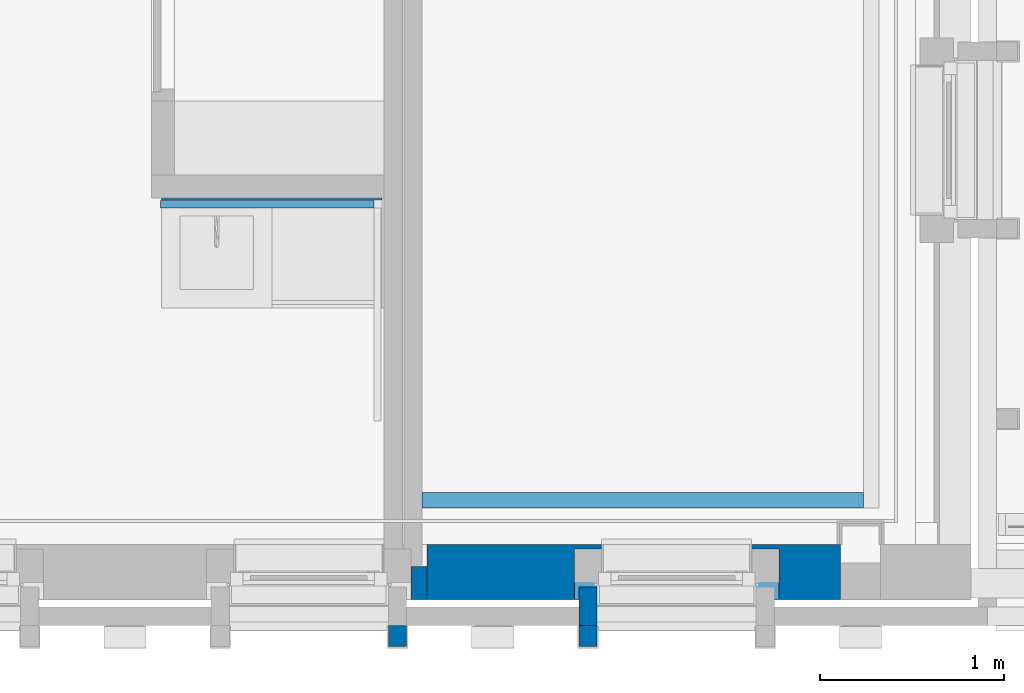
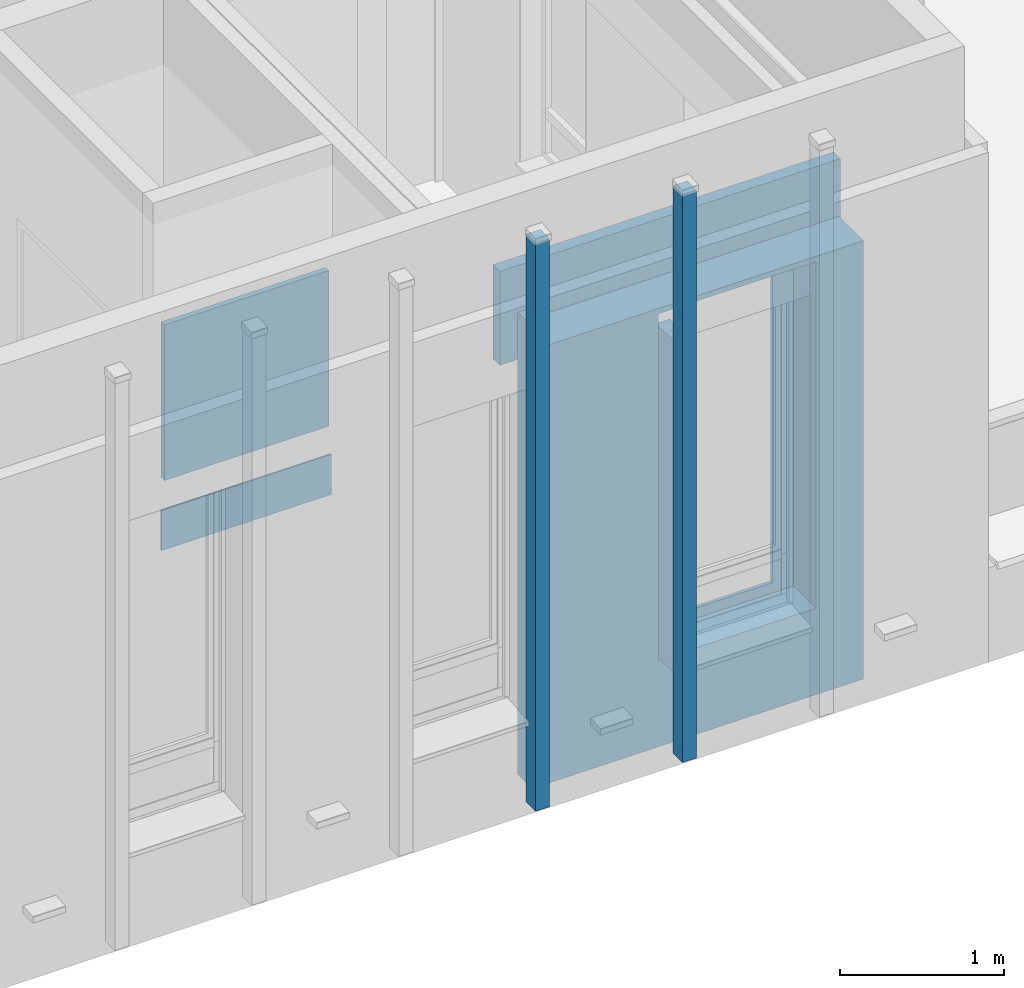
# One storey, part 40 of 118: 8 walls, 12 openings.
"""IFC2X3 building model written with IfcOpenShell, lengths in millimetres."""

from ifc_helpers import new_model, entity, si_unit, converted_unit, derived_unit, direction, frame, frame_2d, origin, place, context, subcontext, project, spatial, rectangle, extrude, faceted_brep, material, layer, layer_set, layer_usage, type_object, element, save


model = new_model("IFC2X3")

# Units and contexts
model_context = context("Model", 3, precision=0.01, world=origin(), true_north=direction((6.123031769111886e-17, 1.0)))
plan_context = context("Plan", 3, precision=0.01, world=origin(), true_north=direction((6.123031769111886e-17, 1.0)))
body_context = subcontext(model_context, "Body", "Model", "MODEL_VIEW")
ifc_project = project(units=[si_unit("LENGTHUNIT", "METRE", prefix="MILLI"), si_unit("AREAUNIT", "SQUARE_METRE"), si_unit("VOLUMEUNIT", "CUBIC_METRE"), converted_unit("PLANEANGLEUNIT", "DEGREE", entity("IfcRatioMeasure", 0.017453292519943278), si_unit("PLANEANGLEUNIT", "RADIAN"), dimensions=[0, 0, 0, 0, 0, 0, 0]), si_unit("MASSUNIT", "GRAM", prefix="KILO"), derived_unit("MASSDENSITYUNIT", [(si_unit("MASSUNIT", "GRAM", prefix="KILO"), 1), (si_unit("LENGTHUNIT", "METRE"), -3)]), derived_unit("IONCONCENTRATIONUNIT", [(si_unit("MASSUNIT", "GRAM", prefix="KILO"), 1), (si_unit("LENGTHUNIT", "METRE"), -3)]), derived_unit("MOMENTOFINERTIAUNIT", [(si_unit("LENGTHUNIT", "METRE"), 4)]), si_unit("TIMEUNIT", "SECOND"), si_unit("FREQUENCYUNIT", "HERTZ"), si_unit("THERMODYNAMICTEMPERATUREUNIT", "DEGREE_CELSIUS"), derived_unit("THERMALTRANSMITTANCEUNIT", [(si_unit("MASSUNIT", "GRAM", prefix="KILO"), 1), (si_unit("THERMODYNAMICTEMPERATUREUNIT", "KELVIN"), -1), (si_unit("TIMEUNIT", "SECOND"), -3)]), derived_unit("THERMALCONDUCTANCEUNIT", [(si_unit("MASSUNIT", "GRAM", prefix="KILO"), 1), (si_unit("THERMODYNAMICTEMPERATUREUNIT", "KELVIN"), -1), (si_unit("TIMEUNIT", "SECOND"), -3), (si_unit("LENGTHUNIT", "METRE"), 1)]), derived_unit("VOLUMETRICFLOWRATEUNIT", [(si_unit("LENGTHUNIT", "METRE"), 3), (si_unit("TIMEUNIT", "SECOND"), -1)]), derived_unit("MASSFLOWRATEUNIT", [(si_unit("MASSUNIT", "GRAM", prefix="KILO"), 1), (si_unit("TIMEUNIT", "SECOND"), -1)]), derived_unit("ROTATIONALFREQUENCYUNIT", [(si_unit("TIMEUNIT", "SECOND"), -1)]), si_unit("ELECTRICCURRENTUNIT", "AMPERE"), si_unit("ELECTRICVOLTAGEUNIT", "VOLT"), si_unit("POWERUNIT", "WATT"), si_unit("FORCEUNIT", "NEWTON", prefix="KILO"), si_unit("ILLUMINANCEUNIT", "LUX"), si_unit("LUMINOUSFLUXUNIT", "LUMEN"), si_unit("LUMINOUSINTENSITYUNIT", "CANDELA"), derived_unit("USERDEFINED", [(si_unit("MASSUNIT", "GRAM", prefix="KILO"), -1), (si_unit("LENGTHUNIT", "METRE"), -2), (si_unit("TIMEUNIT", "SECOND"), 3), (si_unit("LUMINOUSFLUXUNIT", "LUMEN"), 1)]), derived_unit("USERDEFINED", [(si_unit("MASSUNIT", "GRAM", prefix="KILO"), 1), (si_unit("TIMEUNIT", "SECOND"), -3), (si_unit("LENGTHUNIT", "METRE"), 3), (si_unit("ELECTRICCURRENTUNIT", "AMPERE"), -2)]), derived_unit("SOUNDPOWERUNIT", [(si_unit("MASSUNIT", "GRAM", prefix="KILO"), 1), (si_unit("TIMEUNIT", "SECOND"), -3), (si_unit("LENGTHUNIT", "METRE"), 2)]), derived_unit("SOUNDPRESSUREUNIT", [(si_unit("MASSUNIT", "GRAM", prefix="KILO"), 1), (si_unit("LENGTHUNIT", "METRE"), -1), (si_unit("TIMEUNIT", "SECOND"), -2)]), derived_unit("LINEARVELOCITYUNIT", [(si_unit("LENGTHUNIT", "METRE"), 1), (si_unit("TIMEUNIT", "SECOND"), -1)]), si_unit("PRESSUREUNIT", "PASCAL"), derived_unit("USERDEFINED", [(si_unit("MASSUNIT", "GRAM", prefix="KILO"), 1), (si_unit("LENGTHUNIT", "METRE"), -2), (si_unit("TIMEUNIT", "SECOND"), -2)]), derived_unit("LINEARFORCEUNIT", [(si_unit("MASSUNIT", "GRAM", prefix="KILO"), 1), (si_unit("TIMEUNIT", "SECOND"), -2)]), derived_unit("PLANARFORCEUNIT", [(si_unit("MASSUNIT", "GRAM", prefix="KILO"), 1), (si_unit("LENGTHUNIT", "METRE"), -1), (si_unit("TIMEUNIT", "SECOND"), -2)]), derived_unit("SPECIFICHEATCAPACITYUNIT", [(si_unit("THERMODYNAMICTEMPERATUREUNIT", "KELVIN"), -1), (si_unit("LENGTHUNIT", "METRE"), 2), (si_unit("TIMEUNIT", "SECOND"), -2)]), derived_unit("HEATINGVALUEUNIT", [(si_unit("LENGTHUNIT", "METRE"), 2), (si_unit("TIMEUNIT", "SECOND"), -2)]), derived_unit("VAPORPERMEABILITYUNIT", [(si_unit("LENGTHUNIT", "METRE"), -1), (si_unit("TIMEUNIT", "SECOND"), 1)]), derived_unit("DYNAMICVISCOSITYUNIT", [(si_unit("MASSUNIT", "GRAM", prefix="KILO"), 1), (si_unit("TIMEUNIT", "SECOND"), -1), (si_unit("LENGTHUNIT", "METRE"), -1)]), derived_unit("THERMALEXPANSIONCOEFFICIENTUNIT", [(si_unit("THERMODYNAMICTEMPERATUREUNIT", "KELVIN"), -1)]), derived_unit("MODULUSOFELASTICITYUNIT", [(si_unit("MASSUNIT", "GRAM", prefix="KILO"), 1), (si_unit("LENGTHUNIT", "METRE"), -1), (si_unit("TIMEUNIT", "SECOND"), -2)]), derived_unit("ISOTHERMALMOISTURECAPACITYUNIT", [(si_unit("LENGTHUNIT", "METRE"), 3), (si_unit("MASSUNIT", "GRAM", prefix="KILO"), -1)]), derived_unit("MOISTUREDIFFUSIVITYUNIT", [(si_unit("TIMEUNIT", "SECOND"), -1), (si_unit("LENGTHUNIT", "METRE"), 2)])], contexts=[model_context, plan_context])

# Site, building, storey
site_placement = place(None, origin())
site = spatial("IfcSite", under=ifc_project, at=site_placement, Name="Locatie", CompositionType="ELEMENT")
building_placement = place(site_placement, origin())
building = spatial("IfcBuilding", under=site, at=building_placement, Name="Bouwwerk", CompositionType="ELEMENT")
storey_placement = place(building_placement, frame((0.0, 0.0, 7800.0)))
storey = spatial("IfcBuildingStorey", under=building, at=storey_placement, Name="02 tweede verdieping", CompositionType="ELEMENT", Elevation=7800.000000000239)

# Wall, openings
ifc_material_1 = material(Name="n7_isolatie_glaswol")
ifc_layer_1 = layer(ifc_material_1, 30.0)
ifc_layer_2 = layer(ifc_material_1, 245.0)
ifc_material_2 = material(Name="i4_multiplex")
ifc_layer_3 = layer(ifc_material_2, 12.0)
ifc_material_3 = material(Name="f7_gipsvezel")
ifc_layer_4 = layer(ifc_material_3, 13.000000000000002)
ifc_layer_set_1 = layer_set([ifc_layer_1, ifc_layer_2, ifc_layer_3, ifc_layer_4], Name="Basic Wall:NLRS_22_WA_HSB bispouw 30-245-12-13 glaswol_gen_ISR")
ifc_layer_usage_1 = layer_usage(ifc_layer_set_1, "AXIS2", "NEGATIVE", 150.0)
wall_type_1 = type_object("IfcWallType", Name="Basic Wall:NLRS_22_WA_HSB bispouw 30-245-12-13 glaswol_gen_ISR", PredefinedType="STANDARD", material=ifc_layer_set_1)
wall_1_placement = place(storey_placement, frame((34190.0, 9850.0, -30.0), z_axis=(0.0, 0.0, 1.0), x_axis=(-1.0, 0.0, 0.0)))
wall_1 = element("IfcWallStandardCase", 1, at=wall_1_placement, inside=storey, type_object=wall_type_1, material=ifc_layer_usage_1, Name="Basic Wall:NLRS_22_WA_HSB bispouw 30-245-12-13 glaswol_gen_ISR", ObjectType="Basic Wall:NLRS_22_WA_HSB bispouw 30-245-12-13 glaswol_gen_ISR", context=body_context, shape_type="SweptSolid", body=[
    extrude(rectangle(XDim=2247.4999994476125, YDim=300.0000000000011, at=frame_2d((1123.7499997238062, 0.0), x_axis=(-1.0, 0.0))), origin(), (0.0, 0.0, 1.0), 3265.9999999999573),
])
opening_1_placement = place(wall_1_placement, frame((3446.0, 290.0, 633.0)))
element("IfcOpeningElement", 2, at=opening_1_placement, cuts=wall_1, Name="Basic Wall:NLRS_22_WA_HSB bispouw 30-245-12-13 glaswol_gen_ISR", ObjectType="Opening", context=body_context, shape_type="Brep", body=[
    faceted_brep([(-24.0, -100.0, 2472.0), (-103.0, -100.0, 2472.0), (-103.0, -100.0, 42.0), (-1009.0, -100.0, 42.0), (-1009.0, -100.0, 2472.0), (-1088.0, -100.0, 2472.0), (-1088.0, -100.0, 0.0), (-24.0, -100.0, 0.0), (-1088.0, 0.0, 2472.0), (-24.0, 0.0, 2472.0), (-24.0, 0.0, 0.0), (-1088.0, 0.0, 0.0), (-1112.0, -415.0, 2594.0), (-1112.0, -415.0, 11.0), (0.0, -415.0, 11.0), (0.0, -415.0, 2594.0), (-964.0, -415.0, 2443.0), (-148.0, -415.0, 2443.0), (-148.0, -415.0, 87.0), (-964.0, -415.0, 87.0), (-1112.0, -140.0, 2594.0), (0.0, -140.0, 2594.0), (0.0, -140.0, 11.0), (-1112.0, -140.0, 11.0), (-1009.0, -140.0, 42.0), (-103.0, -140.0, 42.0), (-103.0, -140.0, 2508.0), (-1009.0, -140.0, 2508.0), (-103.0, -100.0, 2508.0), (-1009.0, -100.0, 2508.0), (-964.0, -615.0, 2443.0), (-964.0, -615.0, 87.0), (-148.0, -615.0, 87.0), (-148.0, -615.0, 2443.0)], [[[0, 1, 2, 3, 4, 5, 6, 7]], [[8, 9, 10, 11]], [[5, 8, 11, 6]], [[6, 11, 10, 7]], [[7, 10, 9, 0]], [[8, 5, 4, 1, 0, 9]], [[12, 13, 14, 15], [16, 17, 18, 19]], [[20, 21, 22, 23], [24, 25, 26, 27]], [[12, 20, 23, 13]], [[13, 23, 22, 14]], [[14, 22, 21, 15]], [[15, 21, 20, 12]], [[28, 1, 4, 29]], [[24, 27, 29, 4, 3]], [[3, 2, 25, 24]], [[2, 1, 28, 26, 25]], [[29, 27, 26, 28]], [[30, 31, 32, 33]], [[30, 16, 19, 31]], [[31, 19, 18, 32]], [[32, 18, 17, 33]], [[33, 17, 16, 30]]]),
])
opening_2_placement = place(wall_1_placement, frame((5446.0, 290.0, 633.0)))
element("IfcOpeningElement", 3, at=opening_2_placement, cuts=wall_1, Name="Basic Wall:NLRS_22_WA_HSB bispouw 30-245-12-13 glaswol_gen_ISR", ObjectType="Opening", context=body_context, shape_type="Brep", body=[
    faceted_brep([(-24.0, -100.0, 2472.0), (-103.0, -100.0, 2472.0), (-103.0, -100.0, 42.0), (-1009.0, -100.0, 42.0), (-1009.0, -100.0, 2472.0), (-1088.0, -100.0, 2472.0), (-1088.0, -100.0, 0.0), (-24.0, -100.0, 0.0), (-1088.0, 0.0, 2472.0), (-24.0, 0.0, 2472.0), (-24.0, 0.0, 0.0), (-1088.0, 0.0, 0.0), (-1112.0, -415.0, 2594.0), (-1112.0, -415.0, 11.0), (0.0, -415.0, 11.0), (0.0, -415.0, 2594.0), (-964.0, -415.0, 2443.0), (-148.0, -415.0, 2443.0), (-148.0, -415.0, 87.0), (-964.0, -415.0, 87.0), (-1112.0, -140.0, 2594.0), (0.0, -140.0, 2594.0), (0.0, -140.0, 11.0), (-1112.0, -140.0, 11.0), (-1009.0, -140.0, 42.0), (-103.0, -140.0, 42.0), (-103.0, -140.0, 2508.0), (-1009.0, -140.0, 2508.0), (-103.0, -100.0, 2508.0), (-1009.0, -100.0, 2508.0), (-964.0, -615.0, 2443.0), (-964.0, -615.0, 87.0), (-148.0, -615.0, 87.0), (-148.0, -615.0, 2443.0)], [[[0, 1, 2, 3, 4, 5, 6, 7]], [[8, 9, 10, 11]], [[5, 8, 11, 6]], [[6, 11, 10, 7]], [[7, 10, 9, 0]], [[8, 5, 4, 1, 0, 9]], [[12, 13, 14, 15], [16, 17, 18, 19]], [[20, 21, 22, 23], [24, 25, 26, 27]], [[12, 20, 23, 13]], [[13, 23, 22, 14]], [[14, 22, 21, 15]], [[15, 21, 20, 12]], [[28, 1, 4, 29]], [[24, 27, 29, 4, 3]], [[3, 2, 25, 24]], [[2, 1, 28, 26, 25]], [[29, 27, 26, 28]], [[30, 31, 32, 33]], [[30, 16, 19, 31]], [[31, 19, 18, 32]], [[32, 18, 17, 33]], [[33, 17, 16, 30]]]),
])
opening_3_placement = place(wall_1_placement, frame((7446.0, 290.0, 633.0)))
element("IfcOpeningElement", 4, at=opening_3_placement, cuts=wall_1, Name="Basic Wall:NLRS_22_WA_HSB bispouw 30-245-12-13 glaswol_gen_ISR", ObjectType="Opening", context=body_context, shape_type="Brep", body=[
    faceted_brep([(-24.0, -100.0, 2472.0), (-103.0, -100.0, 2472.0), (-103.0, -100.0, 42.0), (-1009.0, -100.0, 42.0), (-1009.0, -100.0, 2472.0), (-1088.0, -100.0, 2472.0), (-1088.0, -100.0, 0.0), (-24.0, -100.0, 0.0), (-1088.0, 0.0, 2472.0), (-24.0, 0.0, 2472.0), (-24.0, 0.0, 0.0), (-1088.0, 0.0, 0.0), (-1112.0, -415.0, 2594.0), (-1112.0, -415.0, 11.0), (0.0, -415.0, 11.0), (0.0, -415.0, 2594.0), (-964.0, -415.0, 2443.0), (-148.0, -415.0, 2443.0), (-148.0, -415.0, 87.0), (-964.0, -415.0, 87.0), (-1112.0, -140.0, 2594.0), (0.0, -140.0, 2594.0), (0.0, -140.0, 11.0), (-1112.0, -140.0, 11.0), (-1009.0, -140.0, 42.0), (-103.0, -140.0, 42.0), (-103.0, -140.0, 2508.0), (-1009.0, -140.0, 2508.0), (-103.0, -100.0, 2508.0), (-1009.0, -100.0, 2508.0), (-964.0, -615.0, 2443.0), (-964.0, -615.0, 87.0), (-148.0, -615.0, 87.0), (-148.0, -615.0, 2443.0)], [[[0, 1, 2, 3, 4, 5, 6, 7]], [[8, 9, 10, 11]], [[5, 8, 11, 6]], [[6, 11, 10, 7]], [[7, 10, 9, 0]], [[8, 5, 4, 1, 0, 9]], [[12, 13, 14, 15], [16, 17, 18, 19]], [[20, 21, 22, 23], [24, 25, 26, 27]], [[12, 20, 23, 13]], [[13, 23, 22, 14]], [[14, 22, 21, 15]], [[15, 21, 20, 12]], [[28, 1, 4, 29]], [[24, 27, 29, 4, 3]], [[3, 2, 25, 24]], [[2, 1, 28, 26, 25]], [[29, 27, 26, 28]], [[30, 31, 32, 33]], [[30, 16, 19, 31]], [[31, 19, 18, 32]], [[32, 18, 17, 33]], [[33, 17, 16, 30]]]),
])
opening_4_placement = place(wall_1_placement, frame((9446.0, 290.0, 633.0)))
element("IfcOpeningElement", 5, at=opening_4_placement, cuts=wall_1, Name="Basic Wall:NLRS_22_WA_HSB bispouw 30-245-12-13 glaswol_gen_ISR", ObjectType="Opening", context=body_context, shape_type="Brep", body=[
    faceted_brep([(-24.0, -100.0, 2472.0), (-103.0, -100.0, 2472.0), (-103.0, -100.0, 42.0), (-1009.0, -100.0, 42.0), (-1009.0, -100.0, 2472.0), (-1088.0, -100.0, 2472.0), (-1088.0, -100.0, 0.0), (-24.0, -100.0, 0.0), (-1088.0, 0.0, 2472.0), (-24.0, 0.0, 2472.0), (-24.0, 0.0, 0.0), (-1088.0, 0.0, 0.0), (-1112.0, -415.0, 2594.0), (-1112.0, -415.0, 11.0), (0.0, -415.0, 11.0), (0.0, -415.0, 2594.0), (-964.0, -415.0, 2443.0), (-148.0, -415.0, 2443.0), (-148.0, -415.0, 87.0), (-964.0, -415.0, 87.0), (-1112.0, -140.0, 2594.0), (0.0, -140.0, 2594.0), (0.0, -140.0, 11.0), (-1112.0, -140.0, 11.0), (-1009.0, -140.0, 42.0), (-103.0, -140.0, 42.0), (-103.0, -140.0, 2508.0), (-1009.0, -140.0, 2508.0), (-103.0, -100.0, 2508.0), (-1009.0, -100.0, 2508.0), (-964.0, -615.0, 2443.0), (-964.0, -615.0, 87.0), (-148.0, -615.0, 87.0), (-148.0, -615.0, 2443.0)], [[[0, 1, 2, 3, 4, 5, 6, 7]], [[8, 9, 10, 11]], [[5, 8, 11, 6]], [[6, 11, 10, 7]], [[7, 10, 9, 0]], [[8, 5, 4, 1, 0, 9]], [[12, 13, 14, 15], [16, 17, 18, 19]], [[20, 21, 22, 23], [24, 25, 26, 27]], [[12, 20, 23, 13]], [[13, 23, 22, 14]], [[14, 22, 21, 15]], [[15, 21, 20, 12]], [[28, 1, 4, 29]], [[24, 27, 29, 4, 3]], [[3, 2, 25, 24]], [[2, 1, 28, 26, 25]], [[29, 27, 26, 28]], [[30, 31, 32, 33]], [[30, 16, 19, 31]], [[31, 19, 18, 32]], [[32, 18, 17, 33]], [[33, 17, 16, 30]]]),
])
opening_5_placement = place(wall_1_placement, frame((13446.0, 290.0, 633.0)))
element("IfcOpeningElement", 6, at=opening_5_placement, cuts=wall_1, Name="Basic Wall:NLRS_22_WA_HSB bispouw 30-245-12-13 glaswol_gen_ISR", ObjectType="Opening", context=body_context, shape_type="Brep", body=[
    faceted_brep([(-24.0, -100.0, 2472.0), (-103.0, -100.0, 2472.0), (-103.0, -100.0, 42.0), (-1009.0, -100.0, 42.0), (-1009.0, -100.0, 2472.0), (-1088.0, -100.0, 2472.0), (-1088.0, -100.0, 0.0), (-24.0, -100.0, 0.0), (-1088.0, 0.0, 2472.0), (-24.0, 0.0, 2472.0), (-24.0, 0.0, 0.0), (-1088.0, 0.0, 0.0), (-1112.0, -415.0, 2594.0), (-1112.0, -415.0, 11.0), (0.0, -415.0, 11.0), (0.0, -415.0, 2594.0), (-964.0, -415.0, 2443.0), (-148.0, -415.0, 2443.0), (-148.0, -415.0, 87.0), (-964.0, -415.0, 87.0), (-1112.0, -140.0, 2594.0), (0.0, -140.0, 2594.0), (0.0, -140.0, 11.0), (-1112.0, -140.0, 11.0), (-1009.0, -140.0, 42.0), (-103.0, -140.0, 42.0), (-103.0, -140.0, 2508.0), (-1009.0, -140.0, 2508.0), (-103.0, -100.0, 2508.0), (-1009.0, -100.0, 2508.0), (-964.0, -615.0, 2443.0), (-964.0, -615.0, 87.0), (-148.0, -615.0, 87.0), (-148.0, -615.0, 2443.0)], [[[0, 1, 2, 3, 4, 5, 6, 7]], [[8, 9, 10, 11]], [[5, 8, 11, 6]], [[6, 11, 10, 7]], [[7, 10, 9, 0]], [[8, 5, 4, 1, 0, 9]], [[12, 13, 14, 15], [16, 17, 18, 19]], [[20, 21, 22, 23], [24, 25, 26, 27]], [[12, 20, 23, 13]], [[13, 23, 22, 14]], [[14, 22, 21, 15]], [[15, 21, 20, 12]], [[28, 1, 4, 29]], [[24, 27, 29, 4, 3]], [[3, 2, 25, 24]], [[2, 1, 28, 26, 25]], [[29, 27, 26, 28]], [[30, 31, 32, 33]], [[30, 16, 19, 31]], [[31, 19, 18, 32]], [[32, 18, 17, 33]], [[33, 17, 16, 30]]]),
])
opening_6_placement = place(wall_1_placement, frame((15446.0, 290.0, 633.0)))
element("IfcOpeningElement", 7, at=opening_6_placement, cuts=wall_1, Name="Basic Wall:NLRS_22_WA_HSB bispouw 30-245-12-13 glaswol_gen_ISR", ObjectType="Opening", context=body_context, shape_type="Brep", body=[
    faceted_brep([(-24.0, -100.0, 2472.0), (-103.0, -100.0, 2472.0), (-103.0, -100.0, 42.0), (-1009.0, -100.0, 42.0), (-1009.0, -100.0, 2472.0), (-1088.0, -100.0, 2472.0), (-1088.0, -100.0, 0.0), (-24.0, -100.0, 0.0), (-1088.0, 0.0, 2472.0), (-24.0, 0.0, 2472.0), (-24.0, 0.0, 0.0), (-1088.0, 0.0, 0.0), (-1112.0, -415.0, 2594.0), (-1112.0, -415.0, 11.0), (0.0, -415.0, 11.0), (0.0, -415.0, 2594.0), (-964.0, -415.0, 2443.0), (-148.0, -415.0, 2443.0), (-148.0, -415.0, 87.0), (-964.0, -415.0, 87.0), (-1112.0, -140.0, 2594.0), (0.0, -140.0, 2594.0), (0.0, -140.0, 11.0), (-1112.0, -140.0, 11.0), (-1009.0, -140.0, 42.0), (-103.0, -140.0, 42.0), (-103.0, -140.0, 2508.0), (-1009.0, -140.0, 2508.0), (-103.0, -100.0, 2508.0), (-1009.0, -100.0, 2508.0), (-964.0, -615.0, 2443.0), (-964.0, -615.0, 87.0), (-148.0, -615.0, 87.0), (-148.0, -615.0, 2443.0)], [[[0, 1, 2, 3, 4, 5, 6, 7]], [[8, 9, 10, 11]], [[5, 8, 11, 6]], [[6, 11, 10, 7]], [[7, 10, 9, 0]], [[8, 5, 4, 1, 0, 9]], [[12, 13, 14, 15], [16, 17, 18, 19]], [[20, 21, 22, 23], [24, 25, 26, 27]], [[12, 20, 23, 13]], [[13, 23, 22, 14]], [[14, 22, 21, 15]], [[15, 21, 20, 12]], [[28, 1, 4, 29]], [[24, 27, 29, 4, 3]], [[3, 2, 25, 24]], [[2, 1, 28, 26, 25]], [[29, 27, 26, 28]], [[30, 31, 32, 33]], [[30, 16, 19, 31]], [[31, 19, 18, 32]], [[32, 18, 17, 33]], [[33, 17, 16, 30]]]),
])
opening_7_placement = place(wall_1_placement, frame((17446.0, 290.0, 633.0)))
element("IfcOpeningElement", 8, at=opening_7_placement, cuts=wall_1, Name="Basic Wall:NLRS_22_WA_HSB bispouw 30-245-12-13 glaswol_gen_ISR", ObjectType="Opening", context=body_context, shape_type="Brep", body=[
    faceted_brep([(-24.0, -100.0, 2472.0), (-103.0, -100.0, 2472.0), (-103.0, -100.0, 42.0), (-1009.0, -100.0, 42.0), (-1009.0, -100.0, 2472.0), (-1088.0, -100.0, 2472.0), (-1088.0, -100.0, 0.0), (-24.0, -100.0, 0.0), (-1088.0, 0.0, 2472.0), (-24.0, 0.0, 2472.0), (-24.0, 0.0, 0.0), (-1088.0, 0.0, 0.0), (-1112.0, -415.0, 2594.0), (-1112.0, -415.0, 11.0), (0.0, -415.0, 11.0), (0.0, -415.0, 2594.0), (-964.0, -415.0, 2443.0), (-148.0, -415.0, 2443.0), (-148.0, -415.0, 87.0), (-964.0, -415.0, 87.0), (-1112.0, -140.0, 2594.0), (0.0, -140.0, 2594.0), (0.0, -140.0, 11.0), (-1112.0, -140.0, 11.0), (-1009.0, -140.0, 42.0), (-103.0, -140.0, 42.0), (-103.0, -140.0, 2508.0), (-1009.0, -140.0, 2508.0), (-103.0, -100.0, 2508.0), (-1009.0, -100.0, 2508.0), (-964.0, -615.0, 2443.0), (-964.0, -615.0, 87.0), (-148.0, -615.0, 87.0), (-148.0, -615.0, 2443.0)], [[[0, 1, 2, 3, 4, 5, 6, 7]], [[8, 9, 10, 11]], [[5, 8, 11, 6]], [[6, 11, 10, 7]], [[7, 10, 9, 0]], [[8, 5, 4, 1, 0, 9]], [[12, 13, 14, 15], [16, 17, 18, 19]], [[20, 21, 22, 23], [24, 25, 26, 27]], [[12, 20, 23, 13]], [[13, 23, 22, 14]], [[14, 22, 21, 15]], [[15, 21, 20, 12]], [[28, 1, 4, 29]], [[24, 27, 29, 4, 3]], [[3, 2, 25, 24]], [[2, 1, 28, 26, 25]], [[29, 27, 26, 28]], [[30, 31, 32, 33]], [[30, 16, 19, 31]], [[31, 19, 18, 32]], [[32, 18, 17, 33]], [[33, 17, 16, 30]]]),
])
opening_8_placement = place(wall_1_placement, frame((19446.0, 290.0, 633.0)))
element("IfcOpeningElement", 9, at=opening_8_placement, cuts=wall_1, Name="Basic Wall:NLRS_22_WA_HSB bispouw 30-245-12-13 glaswol_gen_ISR", ObjectType="Opening", context=body_context, shape_type="Brep", body=[
    faceted_brep([(-24.0, -100.0, 2472.0), (-103.0, -100.0, 2472.0), (-103.0, -100.0, 42.0), (-1009.0, -100.0, 42.0), (-1009.0, -100.0, 2472.0), (-1088.0, -100.0, 2472.0), (-1088.0, -100.0, 0.0), (-24.0, -100.0, 0.0), (-1088.0, 0.0, 2472.0), (-24.0, 0.0, 2472.0), (-24.0, 0.0, 0.0), (-1088.0, 0.0, 0.0), (-1112.0, -415.0, 2594.0), (-1112.0, -415.0, 11.0), (0.0, -415.0, 11.0), (0.0, -415.0, 2594.0), (-964.0, -415.0, 2443.0), (-148.0, -415.0, 2443.0), (-148.0, -415.0, 87.0), (-964.0, -415.0, 87.0), (-1112.0, -140.0, 2594.0), (0.0, -140.0, 2594.0), (0.0, -140.0, 11.0), (-1112.0, -140.0, 11.0), (-1009.0, -140.0, 42.0), (-103.0, -140.0, 42.0), (-103.0, -140.0, 2508.0), (-1009.0, -140.0, 2508.0), (-103.0, -100.0, 2508.0), (-1009.0, -100.0, 2508.0), (-964.0, -615.0, 2443.0), (-964.0, -615.0, 87.0), (-148.0, -615.0, 87.0), (-148.0, -615.0, 2443.0)], [[[0, 1, 2, 3, 4, 5, 6, 7]], [[8, 9, 10, 11]], [[5, 8, 11, 6]], [[6, 11, 10, 7]], [[7, 10, 9, 0]], [[8, 5, 4, 1, 0, 9]], [[12, 13, 14, 15], [16, 17, 18, 19]], [[20, 21, 22, 23], [24, 25, 26, 27]], [[12, 20, 23, 13]], [[13, 23, 22, 14]], [[14, 22, 21, 15]], [[15, 21, 20, 12]], [[28, 1, 4, 29]], [[24, 27, 29, 4, 3]], [[3, 2, 25, 24]], [[2, 1, 28, 26, 25]], [[29, 27, 26, 28]], [[30, 31, 32, 33]], [[30, 16, 19, 31]], [[31, 19, 18, 32]], [[32, 18, 17, 33]], [[33, 17, 16, 30]]]),
])
opening_9_placement = place(wall_1_placement, frame((21446.0, 290.0, 633.0)))
element("IfcOpeningElement", 10, at=opening_9_placement, cuts=wall_1, Name="Basic Wall:NLRS_22_WA_HSB bispouw 30-245-12-13 glaswol_gen_ISR", ObjectType="Opening", context=body_context, shape_type="Brep", body=[
    faceted_brep([(-24.0, -100.0, 2472.0), (-103.0, -100.0, 2472.0), (-103.0, -100.0, 42.0), (-1009.0, -100.0, 42.0), (-1009.0, -100.0, 2472.0), (-1088.0, -100.0, 2472.0), (-1088.0, -100.0, 0.0), (-24.0, -100.0, 0.0), (-1088.0, 0.0, 2472.0), (-24.0, 0.0, 2472.0), (-24.0, 0.0, 0.0), (-1088.0, 0.0, 0.0), (-1112.0, -415.0, 2594.0), (-1112.0, -415.0, 11.0), (0.0, -415.0, 11.0), (0.0, -415.0, 2594.0), (-964.0, -415.0, 2443.0), (-148.0, -415.0, 2443.0), (-148.0, -415.0, 87.0), (-964.0, -415.0, 87.0), (-1112.0, -140.0, 2594.0), (0.0, -140.0, 2594.0), (0.0, -140.0, 11.0), (-1112.0, -140.0, 11.0), (-1009.0, -140.0, 42.0), (-103.0, -140.0, 42.0), (-103.0, -140.0, 2508.0), (-1009.0, -140.0, 2508.0), (-103.0, -100.0, 2508.0), (-1009.0, -100.0, 2508.0), (-964.0, -615.0, 2443.0), (-964.0, -615.0, 87.0), (-148.0, -615.0, 87.0), (-148.0, -615.0, 2443.0)], [[[0, 1, 2, 3, 4, 5, 6, 7]], [[8, 9, 10, 11]], [[5, 8, 11, 6]], [[6, 11, 10, 7]], [[7, 10, 9, 0]], [[8, 5, 4, 1, 0, 9]], [[12, 13, 14, 15], [16, 17, 18, 19]], [[20, 21, 22, 23], [24, 25, 26, 27]], [[12, 20, 23, 13]], [[13, 23, 22, 14]], [[14, 22, 21, 15]], [[15, 21, 20, 12]], [[28, 1, 4, 29]], [[24, 27, 29, 4, 3]], [[3, 2, 25, 24]], [[2, 1, 28, 26, 25]], [[29, 27, 26, 28]], [[30, 31, 32, 33]], [[30, 16, 19, 31]], [[31, 19, 18, 32]], [[32, 18, 17, 33]], [[33, 17, 16, 30]]]),
])
opening_10_placement = place(wall_1_placement, frame((23446.0, 290.0, 633.0)))
element("IfcOpeningElement", 11, at=opening_10_placement, cuts=wall_1, Name="Basic Wall:NLRS_22_WA_HSB bispouw 30-245-12-13 glaswol_gen_ISR", ObjectType="Opening", context=body_context, shape_type="Brep", body=[
    faceted_brep([(-24.0, -100.0, 2472.0), (-103.0, -100.0, 2472.0), (-103.0, -100.0, 42.0), (-1009.0, -100.0, 42.0), (-1009.0, -100.0, 2472.0), (-1088.0, -100.0, 2472.0), (-1088.0, -100.0, 0.0), (-24.0, -100.0, 0.0), (-1088.0, 0.0, 2472.0), (-24.0, 0.0, 2472.0), (-24.0, 0.0, 0.0), (-1088.0, 0.0, 0.0), (-1112.0, -415.0, 2594.0), (-1112.0, -415.0, 11.0), (0.0, -415.0, 11.0), (0.0, -415.0, 2594.0), (-964.0, -415.0, 2443.0), (-148.0, -415.0, 2443.0), (-148.0, -415.0, 87.0), (-964.0, -415.0, 87.0), (-1112.0, -140.0, 2594.0), (0.0, -140.0, 2594.0), (0.0, -140.0, 11.0), (-1112.0, -140.0, 11.0), (-1009.0, -140.0, 42.0), (-103.0, -140.0, 42.0), (-103.0, -140.0, 2508.0), (-1009.0, -140.0, 2508.0), (-103.0, -100.0, 2508.0), (-1009.0, -100.0, 2508.0), (-964.0, -615.0, 2443.0), (-964.0, -615.0, 87.0), (-148.0, -615.0, 87.0), (-148.0, -615.0, 2443.0)], [[[0, 1, 2, 3, 4, 5, 6, 7]], [[8, 9, 10, 11]], [[5, 8, 11, 6]], [[6, 11, 10, 7]], [[7, 10, 9, 0]], [[8, 5, 4, 1, 0, 9]], [[12, 13, 14, 15], [16, 17, 18, 19]], [[20, 21, 22, 23], [24, 25, 26, 27]], [[12, 20, 23, 13]], [[13, 23, 22, 14]], [[14, 22, 21, 15]], [[15, 21, 20, 12]], [[28, 1, 4, 29]], [[24, 27, 29, 4, 3]], [[3, 2, 25, 24]], [[2, 1, 28, 26, 25]], [[29, 27, 26, 28]], [[30, 31, 32, 33]], [[30, 16, 19, 31]], [[31, 19, 18, 32]], [[32, 18, 17, 33]], [[33, 17, 16, 30]]]),
])
opening_11_placement = place(wall_1_placement, frame((11446.0, 290.0, 633.0)))
element("IfcOpeningElement", 12, at=opening_11_placement, cuts=wall_1, Name="Basic Wall:NLRS_22_WA_HSB bispouw 30-245-12-13 glaswol_gen_ISR", ObjectType="Opening", context=body_context, shape_type="Brep", body=[
    faceted_brep([(-24.0, -100.0, 2472.0), (-103.0, -100.0, 2472.0), (-103.0, -100.0, 42.0), (-1009.0, -100.0, 42.0), (-1009.0, -100.0, 2472.0), (-1088.0, -100.0, 2472.0), (-1088.0, -100.0, 0.0), (-24.0, -100.0, 0.0), (-1088.0, 0.0, 2472.0), (-24.0, 0.0, 2472.0), (-24.0, 0.0, 0.0), (-1088.0, 0.0, 0.0), (-1112.0, -415.0, 2594.0), (-1112.0, -415.0, 11.0), (0.0, -415.0, 11.0), (0.0, -415.0, 2594.0), (-964.0, -415.0, 2443.0), (-148.0, -415.0, 2443.0), (-148.0, -415.0, 87.0), (-964.0, -415.0, 87.0), (-1112.0, -140.0, 2594.0), (0.0, -140.0, 2594.0), (0.0, -140.0, 11.0), (-1112.0, -140.0, 11.0), (-1009.0, -140.0, 42.0), (-103.0, -140.0, 42.0), (-103.0, -140.0, 2508.0), (-1009.0, -140.0, 2508.0), (-103.0, -100.0, 2508.0), (-1009.0, -100.0, 2508.0), (-964.0, -615.0, 2443.0), (-964.0, -615.0, 87.0), (-148.0, -615.0, 87.0), (-148.0, -615.0, 2443.0)], [[[0, 1, 2, 3, 4, 5, 6, 7]], [[8, 9, 10, 11]], [[5, 8, 11, 6]], [[6, 11, 10, 7]], [[7, 10, 9, 0]], [[8, 5, 4, 1, 0, 9]], [[12, 13, 14, 15], [16, 17, 18, 19]], [[20, 21, 22, 23], [24, 25, 26, 27]], [[12, 20, 23, 13]], [[13, 23, 22, 14]], [[14, 22, 21, 15]], [[15, 21, 20, 12]], [[28, 1, 4, 29]], [[24, 27, 29, 4, 3]], [[3, 2, 25, 24]], [[2, 1, 28, 26, 25]], [[29, 27, 26, 28]], [[30, 31, 32, 33]], [[30, 16, 19, 31]], [[31, 19, 18, 32]], [[32, 18, 17, 33]], [[33, 17, 16, 30]]]),
])
opening_12_placement = place(wall_1_placement, frame((1446.0, 290.0, 633.0), z_axis=(0.0, 0.0, 1.0), x_axis=(-1.0, 0.0, 0.0)))
element("IfcOpeningElement", 13, at=opening_12_placement, cuts=wall_1, Name="Basic Wall:NLRS_22_WA_HSB bispouw 30-245-12-13 glaswol_gen_ISR", ObjectType="Opening", context=body_context, shape_type="Brep", body=[
    faceted_brep([(24.0, 100.0, 2472.0), (103.0, 100.0, 2472.0), (103.0, 100.0, 42.0), (1009.0, 100.0, 42.0), (1009.0, 100.0, 2472.0), (1088.0, 100.0, 2472.0), (1088.0, 100.0, 0.0), (24.0, 100.0, 0.0), (1088.0, 0.0, 2472.0), (24.0, 0.0, 2472.0), (24.0, 0.0, 0.0), (1088.0, 0.0, 0.0), (1112.0, 415.0, 2594.0), (1112.0, 415.0, 11.0), (0.0, 415.0, 11.0), (0.0, 415.0, 2594.0), (964.0, 415.0, 2443.0), (148.0, 415.0, 2443.0), (148.0, 415.0, 87.0), (964.0, 415.0, 87.0), (1112.0, 140.0, 2594.0), (0.0, 140.0, 2594.0), (0.0, 140.0, 11.0), (1112.0, 140.0, 11.0), (1009.0, 140.0, 42.0), (103.0, 140.0, 42.0), (103.0, 140.0, 2508.0), (1009.0, 140.0, 2508.0), (103.0, 100.0, 2508.0), (1009.0, 100.0, 2508.0), (964.0, 615.0, 2443.0), (964.0, 615.0, 87.0), (148.0, 615.0, 87.0), (148.0, 615.0, 2443.0)], [[[0, 1, 2, 3, 4, 5, 6, 7]], [[8, 9, 10, 11]], [[5, 8, 11, 6]], [[6, 11, 10, 7]], [[7, 10, 9, 0]], [[8, 5, 4, 1, 0, 9]], [[12, 13, 14, 15], [16, 17, 18, 19]], [[20, 21, 22, 23], [24, 25, 26, 27]], [[12, 20, 23, 13]], [[13, 23, 22, 14]], [[14, 22, 21, 15]], [[15, 21, 20, 12]], [[28, 1, 4, 29]], [[24, 27, 29, 4, 3]], [[3, 2, 25, 24]], [[2, 1, 28, 26, 25]], [[29, 27, 26, 28]], [[30, 31, 32, 33]], [[30, 16, 19, 31]], [[31, 19, 18, 32]], [[32, 18, 17, 33]], [[33, 17, 16, 30]]]),
])

# Walls
ifc_material_4 = material(Name="g2_metselwerk_geel licht")
ifc_layer_5 = layer(ifc_material_4, 100.0)
ifc_layer_set_2 = layer_set([ifc_layer_5], Name="Basic Wall:21_WA_metselwerk_licht_100_gen_bdg")
ifc_layer_usage_2 = layer_usage(ifc_layer_set_2, "AXIS2", "NEGATIVE", 50.0)
wall_type_2 = type_object("IfcWallType", Name="Basic Wall:21_WA_metselwerk_licht_100_gen_bdg", PredefinedType="STANDARD", material=ifc_layer_set_2)
wall_2_placement = place(storey_placement, frame((32818.0, 9770.0, 603.0), z_axis=(0.0, 0.0, 1.0), x_axis=(0.0, -1.0, 0.0)))
element("IfcWallStandardCase", 14, at=wall_2_placement, inside=storey, type_object=wall_type_2, material=ifc_layer_usage_2, Name="Basic Wall:21_WA_metselwerk_licht_100_gen_bdg", ObjectType="Basic Wall:21_WA_metselwerk_licht_100_gen_bdg", context=body_context, shape_type="SweptSolid", body=[
    extrude(rectangle(XDim=210.00000000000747, YDim=100.00000000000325, at=frame_2d((105.00000000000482, -1.7053025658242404e-13), x_axis=(-1.0, 0.0))), origin(), (0.0, 0.0, 1.0), 2471.999999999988),
])
wall_3_placement = place(storey_placement, frame((32818.0, 9560.0, 0.0), z_axis=(0.0, 0.0, 1.0), x_axis=(0.0, -1.0, 0.0)))
element("IfcWallStandardCase", 15, at=wall_3_placement, inside=storey, type_object=wall_type_2, material=ifc_layer_usage_2, Name="Basic Wall:21_WA_metselwerk_licht_100_gen_bdg", ObjectType="Basic Wall:21_WA_metselwerk_licht_100_gen_bdg", context=body_context, shape_type="SweptSolid", body=[
    extrude(rectangle(XDim=115.00000000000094, YDim=100.00000000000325, at=frame_2d((57.50000000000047, 3.730349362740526e-13), x_axis=(-1.0, 0.0))), origin(), (0.0, 0.0, 1.0), 4232.000000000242),
])
ifc_layer_usage_3 = layer_usage(ifc_layer_set_2, "AXIS2", "POSITIVE", -50.0)
wall_4_placement = place(storey_placement, frame((31782.0, 9560.0, 0.0), z_axis=(0.0, 0.0, 1.0), x_axis=(0.0, -1.0, 0.0)))
element("IfcWallStandardCase", 16, at=wall_4_placement, inside=storey, type_object=wall_type_2, material=ifc_layer_usage_3, Name="Basic Wall:21_WA_metselwerk_licht_100_gen_bdg", ObjectType="Basic Wall:21_WA_metselwerk_licht_100_gen_bdg", context=body_context, shape_type="SweptSolid", body=[
    extrude(rectangle(XDim=115.00000000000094, YDim=100.00000000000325, at=frame_2d((57.50000000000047, 3.730349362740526e-13), x_axis=(-1.0, 0.0))), origin(), (0.0, 0.0, 1.0), 4231.99999999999),
])
ifc_material_5 = material(Name="n7_isolatie_Resol")
ifc_layer_6 = layer(ifc_material_5, 180.0)
ifc_layer_set_3 = layer_set([ifc_layer_6], Name="Basic Wall:NLRS_22_WA_HSB bispouw 180_gen_ISR")
ifc_layer_usage_4 = layer_usage(ifc_layer_set_3, "AXIS2", "NEGATIVE", 90.0)
wall_type_3 = type_object("IfcWallType", Name="Basic Wall:NLRS_22_WA_HSB bispouw 180_gen_ISR", PredefinedType="STANDARD", material=ifc_layer_set_3)
wall_5_placement = place(storey_placement, frame((31942.500000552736, 9790.0, -30.0), z_axis=(0.0, 0.0, 1.0), x_axis=(-1.0, 0.0, 0.0)))
element("IfcWallStandardCase", 17, at=wall_5_placement, inside=storey, type_object=wall_type_3, material=ifc_layer_usage_4, Name="Basic Wall:NLRS_22_WA_HSB bispouw 180_gen_ISR", ObjectType="Basic Wall:NLRS_22_WA_HSB bispouw 180_gen_ISR", context=body_context, shape_type="SweptSolid", body=[
    extrude(rectangle(XDim=86.50000055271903, YDim=179.99999999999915, at=frame_2d((43.250000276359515, 5.400124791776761e-13), x_axis=(-1.0, 0.0))), origin(), (0.0, 0.0, 1.0), 3440.0000000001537),
])
ifc_layer_7 = layer(ifc_material_3, 13.000000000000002)
ifc_material_6 = material(Name="ISR_Luchtspouw")
ifc_layer_8 = layer(ifc_material_6, 71.0)
ifc_layer_set_4 = layer_set([ifc_layer_7, ifc_layer_8], Name="Basic Wall:22_WA_koof_83 12-71")
ifc_layer_usage_5 = layer_usage(ifc_layer_set_4, "AXIS2", "NEGATIVE", 41.99999999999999)
wall_type_4 = type_object("IfcWallType", Name="Basic Wall:22_WA_koof_83 12-71", PredefinedType="STANDARD", material=ifc_layer_set_4)
wall_6_placement = place(storey_placement, frame((34316.0, 10242.0, 2800.0), z_axis=(0.0, 0.0, 1.0), x_axis=(-1.0, 0.0, 0.0)))
element("IfcWallStandardCase", 18, at=wall_6_placement, inside=storey, type_object=wall_type_4, material=ifc_layer_usage_5, Name="Basic Wall:22_WA_koof_83 12-71", ObjectType="Basic Wall:22_WA_koof_83 12-71", context=body_context, shape_type="SweptSolid", body=[
    extrude(rectangle(XDim=2399.499999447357, YDim=83.99999999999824, at=frame_2d((1199.7499997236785, -3.375077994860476e-13), x_axis=(-1.0, 0.0))), origin(), (0.0, 0.0, 1.0), 700.000000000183),
])
ifc_material_7 = material(Name="f7_gips")
ifc_layer_9 = layer(ifc_material_7, 12.0)
ifc_layer_set_5 = layer_set([ifc_layer_9], Name="Basic Wall:NLRS_41_WA_beplating 12_gen_ISR")
ifc_layer_usage_6 = layer_usage(ifc_layer_set_5, "AXIS2", "NEGATIVE", 6.0)
wall_type_5 = type_object("IfcWallType", Name="Basic Wall:NLRS_41_WA_beplating 12_gen_ISR", PredefinedType="STANDARD", material=ifc_layer_set_5)
wall_7_placement = place(storey_placement, frame((31696.50000055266, 11880.0, 900.0), z_axis=(0.0, 0.0, 1.0), x_axis=(-1.0, 0.0, 0.0)))
element("IfcWallStandardCase", 19, at=wall_7_placement, inside=storey, type_object=wall_type_5, material=ifc_layer_usage_6, Name="Basic Wall:NLRS_41_WA_beplating 12_gen_ISR", ObjectType="Basic Wall:NLRS_41_WA_beplating 12_gen_ISR", context=body_context, shape_type="SweptSolid", body=[
    extrude(rectangle(XDim=1198.0000079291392, YDim=12.000000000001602, at=frame_2d((599.0000039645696, 1.4477308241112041e-13), x_axis=(-1.0, 0.0))), origin(), (0.0, 0.0, 1.0), 300.0000000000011),
])
ifc_material_8 = material(Name="f7_binnenwandafwerking")
ifc_layer_10 = layer(ifc_material_8, 1.0)
ifc_layer_11 = layer(ifc_material_6, 39.0)
ifc_layer_set_6 = layer_set([ifc_layer_10, ifc_layer_11], Name="Basic Wall:NLRS_41_WA_akoestische panelen 40_gen_ISR")
ifc_layer_usage_7 = layer_usage(ifc_layer_set_6, "AXIS2", "NEGATIVE", 20.0)
wall_type_6 = type_object("IfcWallType", Name="Basic Wall:NLRS_41_WA_akoestische panelen 40_gen_ISR", PredefinedType="STANDARD", material=ifc_layer_set_6)
wall_8_placement = place(storey_placement, frame((31653.50000055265, 11851.0, 1450.0), z_axis=(0.0, 0.0, 1.0), x_axis=(-1.0, 0.0, 0.0)))
element("IfcWallStandardCase", 20, at=wall_8_placement, inside=storey, type_object=wall_type_6, material=ifc_layer_usage_7, Name="Basic Wall:NLRS_41_WA_akoestische panelen 40_gen_ISR", ObjectType="Basic Wall:NLRS_41_WA_akoestische panelen 40_gen_ISR", context=body_context, shape_type="SweptSolid", body=[
    extrude(rectangle(XDim=1160.0000000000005, YDim=39.999999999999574, at=frame_2d((580.0000000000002, -3.2507330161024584e-13), x_axis=(-1.0, 0.0))), origin(), (0.0, 0.0, 1.0), 1160.0000000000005),
])

save(model, "model.ifc")
